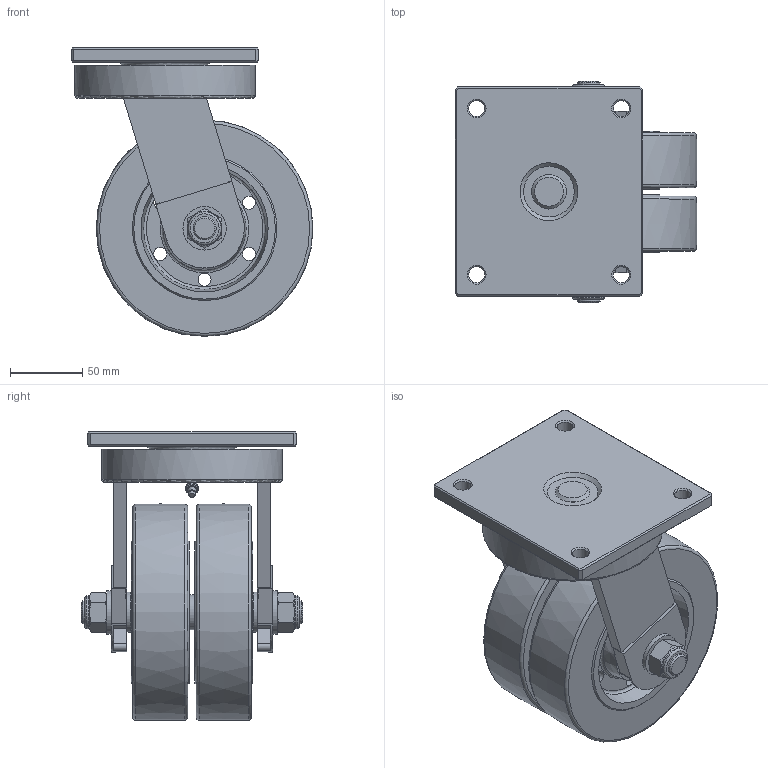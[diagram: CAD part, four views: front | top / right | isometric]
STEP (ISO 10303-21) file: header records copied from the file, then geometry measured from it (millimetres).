
FILE_DESCRIPTION((''),'2;1');
FILE_NAME('C:\Documents and Settings\Administrator\바탕 화면\3D STEP\GXTD-SERIES\GXTD-150\GXTD-150-SF.stp','2010-12-27T14:39:21',('Administrator'),(''),'Autodesk Inventor 2009','Autodesk Inventor 2009','');
FILE_SCHEMA(('AUTOMOTIVE_DESIGN { 1 0 10303 214 1 1 1 1 }'));
Length unit declared in the file: millimetre
Products named in the file (1): GXTD-150-SF
Bounding box: 167.43 x 153 x 199.71 mm (x, y, z)
Volume: 1718325.1 mm3; surface area: 277973.8 mm2
Topology: 12 solids, 12 shells, 395 faces, 897 edges, 566 vertices
Faces by surface type: plane 190, cylinder 96, cone 51, torus 29, bspline 29
Full cylindrical faces by diameter (mm): 3 x1, 5 x1, 7.401 x1, 9 x13, 9.238 x1, 11 x4, 16 x4, 16.2 x2, 17 x8, 17.2 x4, 22.704 x2, 24 x5, 24.667 x8, 28 x2, 30 x3, 32.333 x8, 36 x2, 40 x8, 42.8 x1, 56.6 x1, 57.2 x1, 58 x2, 60 x1, 62.2 x1, 63.367 x1, 108 x1, 118 x1, 125 x1
Entity records: 11297 total; most frequent: CARTESIAN_POINT 3432, DIRECTION 1643, ORIENTED_EDGE 1280, EDGE_LOOP 695, AXIS2_PLACEMENT_3D 692, EDGE_CURVE 640, VERTEX_POINT 498, FACE_OUTER_BOUND 395
